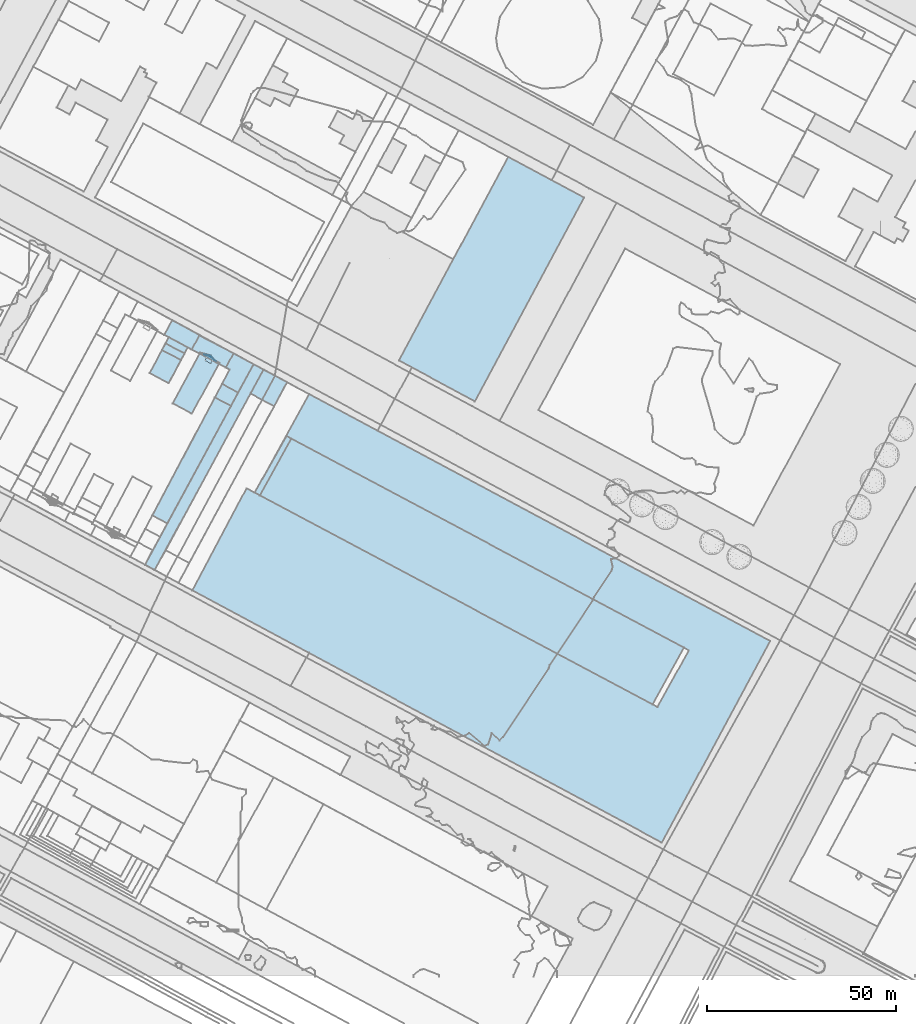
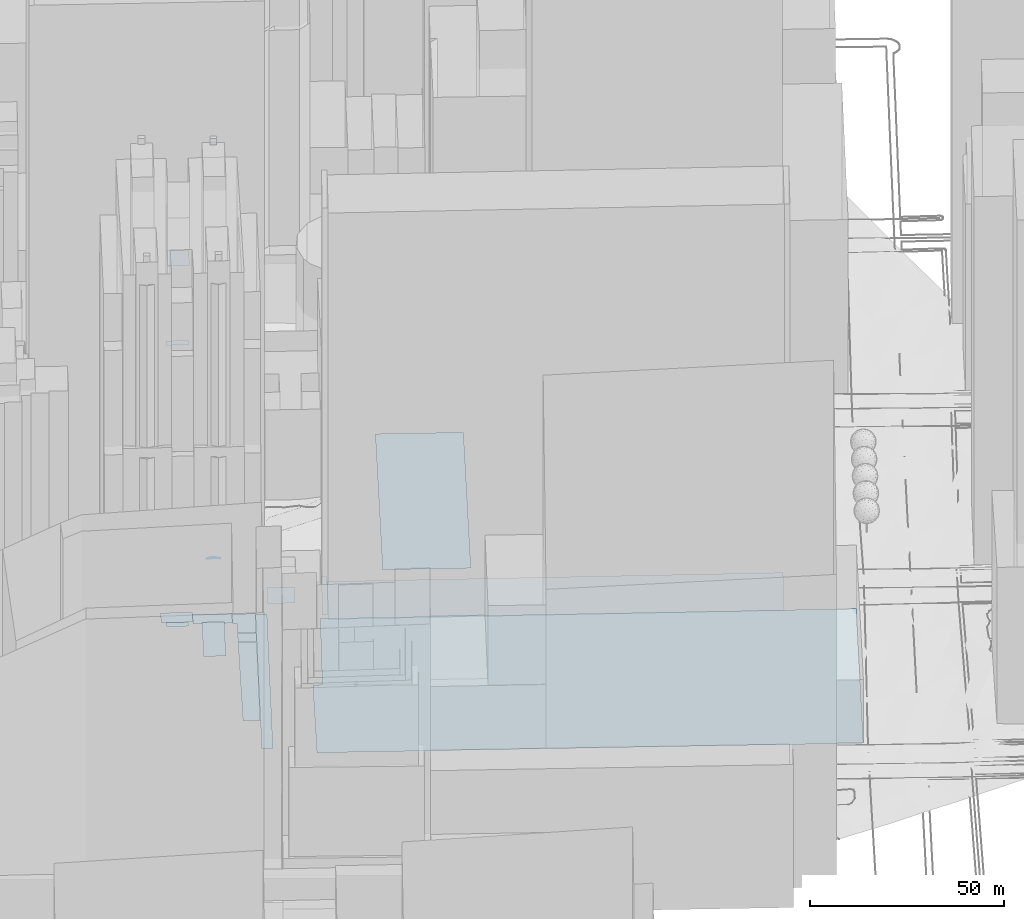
# Not in any storey, part 5 of 76: 17 footings.
"""IFC2X3 model written with IfcOpenShell, lengths in metres."""

from ifc_helpers import new_model, si_unit, frame, origin_with_axes, place, context, subcontext, project, faceted_brep, element, save


model = new_model("IFC2X3")

# Units and contexts
model_context = context("Model", 3, precision=1e-05, world=origin_with_axes())
body_context = subcontext(model_context, "Body", "Model", "MODEL_VIEW")
ifc_project = project(units=[si_unit("AREAUNIT", "SQUARE_METRE"), si_unit("LENGTHUNIT", "METRE")], contexts=[model_context])

# Footings
footing_1_placement = place(None, frame((145.8163168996, 126.9152581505, 39.4739662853), z_axis=(0.0, 0.0, 1.0), x_axis=(1.0, 0.0, 0.0)))
element("IfcFooting", 1, at=footing_1_placement, Name="Sol 0", PredefinedType="STRIP_FOOTING", context=body_context, shape_type="Brep", body=[
    faceted_brep([(103.867286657, -55.3249895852, 0.0), (0.0, 0.0, 0.0), (8.3262633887, 15.0070838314, 0.0), (112.1849689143, -40.3178861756, 0.0)], [[[0, 1, 2]], [[2, 3, 0]]]),
])
footing_2_placement = place(None, frame((127.9503385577, 101.7942196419, 19.0609188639), z_axis=(0.0, 0.0, 1.0), x_axis=(1.0, 0.0, 0.0)))
element("IfcFooting", 2, at=footing_2_placement, Name="Sol 0", PredefinedType="STRIP_FOOTING", context=body_context, shape_type="Brep", body=[
    faceted_brep([(124.2012870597, -66.7460663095, 0.0), (0.0, 0.0, 0.0), (14.3495804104, 26.9786628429, 0.0), (30.9179421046, 51.8848183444, 0.0), (152.8564476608, -13.4215566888, 0.0), (16.4988125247, 25.8156958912, 0.0)], [[[0, 1, 2]], [[3, 4, 0]], [[0, 2, 5]], [[5, 3, 0]]]),
])
footing_3_placement = place(None, frame((182.6039745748, 162.5591833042, 20.6927717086), z_axis=(0.0, 0.0, 1.0), x_axis=(1.0, 0.0, 0.0)))
element("IfcFooting", 3, at=footing_3_placement, Name="Sol 0", PredefinedType="STRIP_FOOTING", context=body_context, shape_type="Brep", body=[
    faceted_brep([(20.0810169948, -10.7688576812, 0.0), (0.0, 0.0, 0.0), (28.9020091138, 53.8711326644, 0.0), (48.9829273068, 43.1023540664, 0.0)], [[[0, 1, 2]], [[2, 3, 0]]]),
])
footing_4_placement = place(None, frame((144.4491510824, 127.6099155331, 41.0408020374), z_axis=(0.0, 0.0, 1.0), x_axis=(1.0, 0.0, 0.0)))
element("IfcFooting", 4, at=footing_4_placement, Name="Sol 0", PredefinedType="STRIP_FOOTING", context=body_context, shape_type="Brep", body=[
    faceted_brep([(1.3671658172, -0.6946573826, 0.0), (0.0, 0.0, 0.0), (8.4192388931, 14.9970605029, 0.0), (9.6934292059, 14.3124264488, 0.0)], [[[0, 1, 2]], [[2, 3, 0]]]),
])
footing_5_placement = place(None, frame((117.3791727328, 121.6110559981, 20.8267398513), z_axis=(0.0, 0.0, 1.0), x_axis=(1.0, 0.0, 0.0)))
element("IfcFooting", 5, at=footing_5_placement, Name="Sol 0", PredefinedType="STRIP_FOOTING", context=body_context, shape_type="Brep", body=[
    faceted_brep([(3.9330714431, -2.1192496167, 0.0), (0.0, 0.0, 0.0), (16.537532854, 31.2007155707, 0.0), (20.7848229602, 28.9185921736, 0.0)], [[[0, 1, 2]], [[2, 3, 0]]]),
])
footing_6_placement = place(None, frame((115.4207049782, 108.532058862, 20.6954997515), z_axis=(0.0, 0.0, 1.0), x_axis=(1.0, 0.0, 0.0)))
element("IfcFooting", 6, at=footing_6_placement, Name="Sol 0", PredefinedType="STRIP_FOOTING", context=body_context, shape_type="Brep", body=[
    faceted_brep([(2.5572123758, -1.4024849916, 0.0), (0.0, 0.0, 0.0), (28.7687753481, 53.0477319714, 0.0), (31.3771339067, 51.6014424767, 0.0)], [[[0, 1, 2]], [[2, 3, 0]]]),
])
footing_7_placement = place(None, frame((116.6721914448, 159.2172708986, 141.4782063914), z_axis=(0.0, 0.0, 1.0), x_axis=(1.0, 0.0, 0.0)))
element("IfcFooting", 7, at=footing_7_placement, Name="Sol 0", PredefinedType="STRIP_FOOTING", context=body_context, shape_type="Brep", body=[
    faceted_brep([(5.0281825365, -2.6505379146, 0.0), (0.0, 0.0, 0.0), (3.2380972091, 6.1105477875, 0.0), (8.2745883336, 3.4712109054, 0.0)], [[[0, 1, 2]], [[2, 3, 0]]]),
])
footing_8_placement = place(None, frame((119.9102886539, 165.3278186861, 111.6038647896), z_axis=(0.0, 0.0, 1.0), x_axis=(1.0, 0.0, 0.0)))
element("IfcFooting", 8, at=footing_8_placement, Name="Sol 0", PredefinedType="STRIP_FOOTING", context=body_context, shape_type="Brep", body=[
    faceted_brep([(5.0364911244, -2.6393368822, 0.0), (0.0, 0.0, 0.0), (0.9333889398, 1.7649989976, 0.0), (5.9698792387, -0.874337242, 0.0)], [[[0, 1, 2]], [[2, 3, 0]]]),
])
footing_9_placement = place(None, frame((120.8436775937, 167.0928176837, 21.6386341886), z_axis=(0.0, 0.0, 1.0), x_axis=(1.0, 0.0, 0.0)))
element("IfcFooting", 9, at=footing_9_placement, Name="Sol 0", PredefinedType="STRIP_FOOTING", context=body_context, shape_type="Brep", body=[
    faceted_brep([(5.0364902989, -2.6393362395, 0.0), (0.0, 0.0, 0.0), (0.8757243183, 1.6422044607, 0.0), (5.8792260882, -1.0641279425, 0.0)], [[[0, 1, 2]], [[2, 3, 0]]]),
])
footing_10_placement = place(None, frame((120.5302679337, 169.3651384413, 21.6421787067), z_axis=(0.0, 0.0, 1.0), x_axis=(1.0, 0.0, 0.0)))
element("IfcFooting", 10, at=footing_10_placement, Name="Sol 0", PredefinedType="STRIP_FOOTING", context=body_context, shape_type="Brep", body=[
    faceted_brep([(7.2712718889, -3.9012342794, 0.0), (0.0, 0.0, 0.0), (2.1162476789, 3.8548618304, 0.0), (9.3368747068, -0.0469587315, 0.0)], [[[0, 1, 2]], [[2, 3, 0]]]),
])
footing_11_placement = place(None, frame((127.8015398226, 165.4639041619, 21.0444509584), z_axis=(0.0, 0.0, 1.0), x_axis=(1.0, 0.0, 0.0)))
element("IfcFooting", 11, at=footing_11_placement, Name="Sol 0", PredefinedType="STRIP_FOOTING", context=body_context, shape_type="Brep", body=[
    faceted_brep([(2.0724819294, -1.0972490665, 0.0), (0.0, 0.0, 0.0), (2.0078098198, 3.7425815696, 0.0), (9.0200620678, -4.746883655, 0.0), (7.1770165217, -3.7801977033, 0.0), (5.12513906, -1.5502808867, 0.0), (11.0616303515, -1.0039073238, 0.0), (2.2459900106, -0.7732678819, 0.0)], [[[0, 1, 2]], [[3, 4, 5]], [[2, 6, 3]], [[7, 0, 2]], [[2, 3, 5]], [[5, 7, 2]]]),
])
footing_12_placement = place(None, frame((130.8715359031, 164.2450175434, 41.2941403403), z_axis=(0.0, 0.0, 1.0), x_axis=(1.0, 0.0, 0.0)))
element("IfcFooting", 12, at=footing_12_placement, Name="Sol 0", PredefinedType="STRIP_FOOTING", context=body_context, shape_type="Brep", body=[
    faceted_brep([(0.9598263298, -0.5106541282, 0.0), (0.0, 0.0, 0.0), (2.0551429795, -0.3313942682, 0.0), (3.4234050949, -1.8476075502, 0.0)], [[[0, 1, 2]], [[2, 3, 0]]]),
])
footing_13_placement = place(None, frame((131.2446046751, 162.6506276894, 172.3367242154), z_axis=(0.0, 0.0, 1.0), x_axis=(1.0, 0.0, 0.0)))
element("IfcFooting", 13, at=footing_13_placement, Name="Sol 0", PredefinedType="STRIP_FOOTING", context=body_context, shape_type="Brep", body=[
    faceted_brep([(1.5290734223, -0.8260055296, 0.0), (0.0, 0.0, 0.0), (0.5867575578, 1.0837357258, 0.0), (2.1158308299, 0.2577303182, 0.0)], [[[0, 1, 2]], [[2, 3, 0]]]),
])
footing_14_placement = place(None, frame((122.7499311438, 151.2387428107, 21.2252541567), z_axis=(0.0, 0.0, 1.0), x_axis=(1.0, 0.0, 0.0)))
element("IfcFooting", 14, at=footing_14_placement, Name="Sol 0", PredefinedType="STRIP_FOOTING", context=body_context, shape_type="Brep", body=[
    faceted_brep([(5.0798643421, -2.738751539, 0.0), (0.0, 0.0, 0.0), (7.2975986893, 13.4518934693, 0.0), (12.3774568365, 10.713146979, 0.0)], [[[0, 1, 2]], [[2, 3, 0]]]),
])
footing_15_placement = place(None, frame((133.9167055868, 152.8117715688, 20.9084652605), z_axis=(0.0, 0.0, 1.0), x_axis=(1.0, 0.0, 0.0)))
element("IfcFooting", 15, at=footing_15_placement, Name="Sol 0", PredefinedType="STRIP_FOOTING", context=body_context, shape_type="Brep", body=[
    faceted_brep([(4.2472901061, -2.2821233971, 0.0), (0.0, 0.0, 0.0), (1.8917085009, 3.563598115, 0.0), (6.1475666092, 1.270473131, 0.0)], [[[0, 1, 2]], [[2, 3, 0]]]),
])
footing_16_placement = place(None, frame((135.8084140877, 156.3753696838, 20.9336598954), z_axis=(0.0, 0.0, 1.0), x_axis=(1.0, 0.0, 0.0)))
element("IfcFooting", 16, at=footing_16_placement, Name="Sol 0", PredefinedType="STRIP_FOOTING", context=body_context, shape_type="Brep", body=[
    faceted_brep([(4.2558581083, -2.293124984, 0.0), (0.0, 0.0, 0.0), (2.0239153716, 3.8093843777, 0.0), (3.0547560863, 8.0846271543, 0.0), (8.3810662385, 5.2044211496, 0.0), (1.0131878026, 4.3416508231, 0.0)], [[[0, 1, 2]], [[3, 4, 0]], [[2, 5, 3]], [[3, 0, 2]]]),
])
footing_17_placement = place(None, frame((143.3426323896, 153.8205779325, 29.1035144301), z_axis=(0.0, 0.0, 1.0), x_axis=(1.0, 0.0, 0.0)))
element("IfcFooting", 17, at=footing_17_placement, Name="Sol 0", PredefinedType="STRIP_FOOTING", context=body_context, shape_type="Brep", body=[
    faceted_brep([(6.235119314, -3.3581409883, 0.0), (0.0, 0.0, 0.0), (3.4552064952, 6.3129234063, 0.0), (9.6477332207, 2.9875971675, 0.0)], [[[0, 1, 2]], [[2, 3, 0]]]),
])

save(model, "model.ifc")
